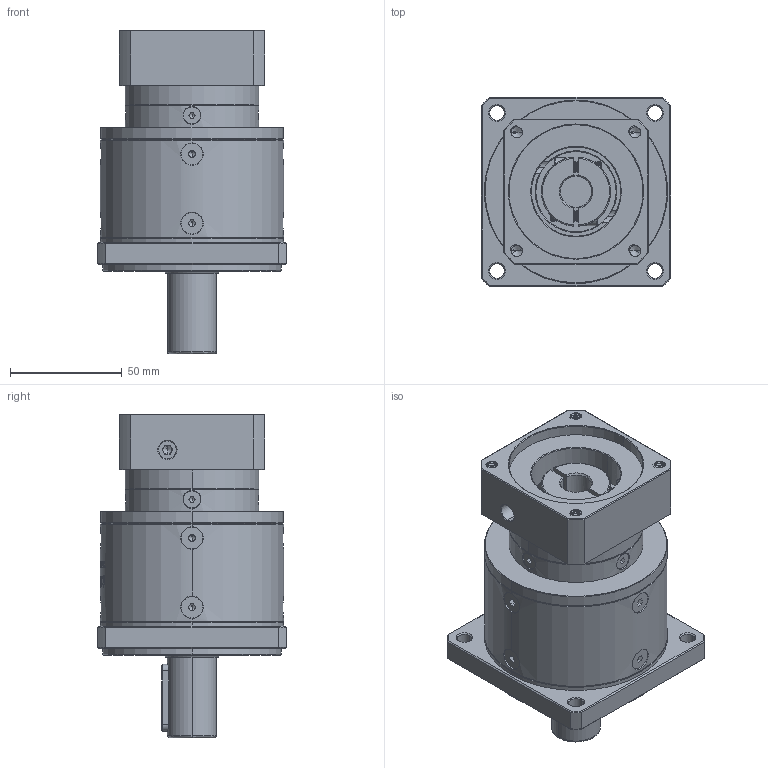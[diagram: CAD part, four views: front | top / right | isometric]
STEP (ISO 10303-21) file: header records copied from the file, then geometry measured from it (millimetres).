
FILE_DESCRIPTION (( 'STEP AP214' ), '1' );
FILE_NAME ('ZF80-D22-L2-14-60-75-M6.step', '2022-05-08T09:26:40', ( '' ), ( 'Microsoft' ), 'SwSTEP 2.0', 'SolidWorks 2016', '' );
FILE_SCHEMA (( 'AUTOMOTIVE_DESIGN' ));
Length unit declared in the file: millimetre
Products named in the file (1): ZF80-D22-L2-14-60-75-M6
Bounding box: 85 x 85 x 145 mm (x, y, z)
Volume: 483631.6 mm3; surface area: 71174 mm2
Topology: 18 solids, 18 shells, 2050 faces, 5351 edges, 3398 vertices
Faces by surface type: plane 953, cylinder 429, bspline 328, cone 326, torus 14
Entity records: 111149 total; most frequent: CARTESIAN_POINT 41795, ORIENTED_EDGE 10626, DIRECTION 8481, EDGE_CURVE 5313, VERTEX_POINT 3398, LINE 2867, VECTOR 2867, AXIS2_PLACEMENT_3D 2807
